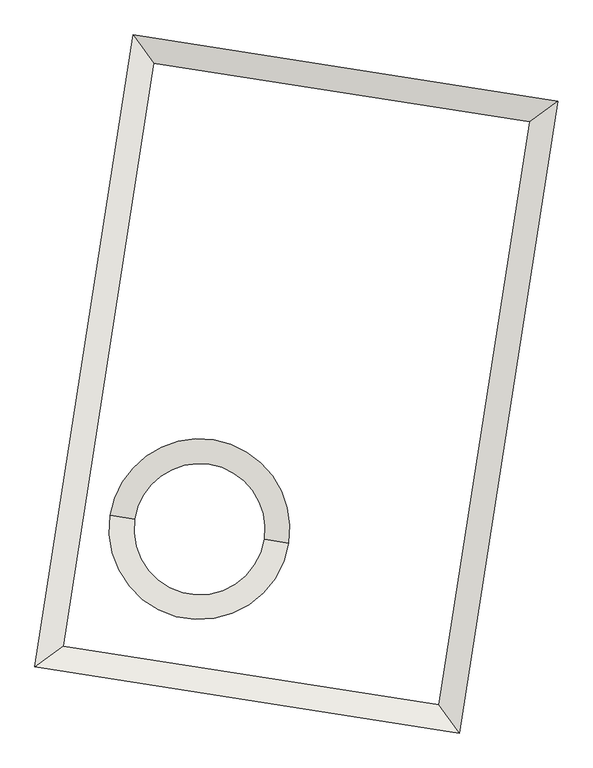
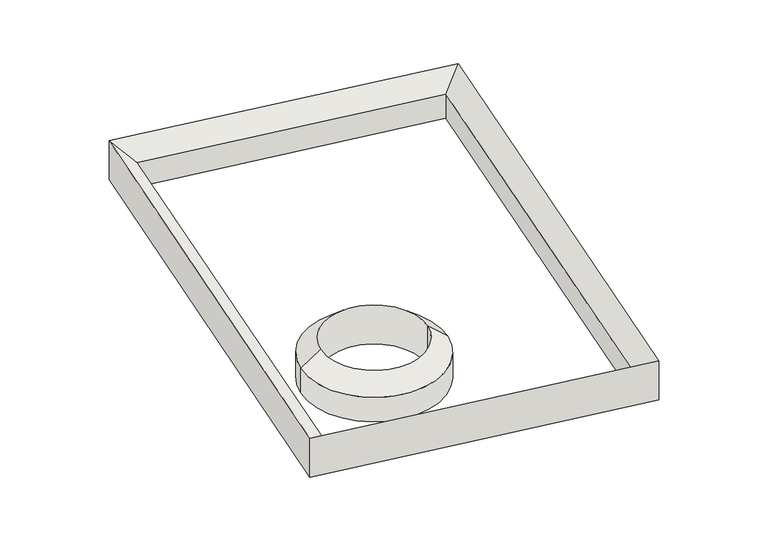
"""IFC4 building model written with IfcOpenShell, lengths in millimetres: wall geometry, muro fuente : muro fuente."""

from ifc_helpers import new_model, si_unit, frame, origin, place, context, project, spatial, polyline, circle_curve, faceted_brep, source, transform, mapped, element, save
from ifc_brep_helpers import plane_surface, cylinder_surface, revolved_surface, advanced_brep


def wall_f9be374a(model_context):
    return source(origin(), model_context, "Body", "SolidModel", [
        advanced_brep(
        [(-38129.5823799, -68581.3931196, -150.0), (-36825.3308935, -68784.6861602, -150.0), (-36825.3308935, -68784.6861602, 100.0), (-38129.5823799, -68581.3931196, 100.0), (-37951.7299045, -68609.1148978, 250.0), (-37003.183369, -68756.9643819, 250.0), (-37003.183369, -68756.9643819, -150.0), (-37951.7299045, -68609.1148978, -150.0)],
        [
            (0, 1, circle_curve(frame((-37477.4566367, -68683.0396399, -150.0), z_axis=(0.0, 0.0, 1.0), x_axis=(0.9880693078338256, -0.15400987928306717, 0.0)), 660.0)),
            (1, 2),
            (2, 3, circle_curve(frame((-37477.4566367, -68683.0396399, 100.0), z_axis=(0.0, 0.0, -1.0), x_axis=(0.9880693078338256, -0.15400987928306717, 0.0)), 660.0)),
            (3, 0),
            (4, 5, circle_curve(frame((-37477.4566367, -68683.0396399, 250.0), z_axis=(0.0, 0.0, 1.0), x_axis=(0.9880693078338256, -0.15400987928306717, 0.0)), 480.0)),
            (5, 6),
            (6, 7, circle_curve(frame((-37477.4566367, -68683.0396399, -150.0), z_axis=(0.0, 0.0, -1.0), x_axis=(0.9880693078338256, -0.15400987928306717, 0.0)), 480.0)),
            (7, 4),
            (2, 5),
            (4, 3),
            (1, 0, circle_curve(frame((-37477.4566367, -68683.0396399, -150.0), z_axis=(0.0, 0.0, 1.0), x_axis=(-0.9880693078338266, 0.1540098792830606, 0.0)), 660.0)),
            (3, 2, circle_curve(frame((-37477.4566367, -68683.0396399, 100.0), z_axis=(0.0, 0.0, -1.0), x_axis=(-0.9880693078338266, 0.1540098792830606, 0.0)), 660.0)),
            (6, 7, circle_curve(frame((-37477.4566367, -68683.0396399, -150.0), z_axis=(0.0, 0.0, 1.0), x_axis=(-0.9880693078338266, 0.1540098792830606, 0.0)), 480.0)),
            (5, 4, circle_curve(frame((-37477.4566367, -68683.0396399, 250.0), z_axis=(0.0, 0.0, 1.0), x_axis=(-0.9880693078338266, 0.1540098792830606, 0.0)), 480.0)),
        ],
        [
            cylinder_surface(frame((-37477.4566367, -68683.0396399, 0.0), z_axis=(0.0, 0.0, -1.0), x_axis=(0.9880693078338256, -0.15400987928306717, 0.0)), 660.0),
            revolved_surface(polyline([(-37003.18336893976, -68756.96438195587, -150.0), (-37003.18336893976, -68756.96438195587, 250.0)]), (-37477.4566367, -68683.0396399, 0.0), (0.0, 0.0, -1.0)),
            revolved_surface(polyline([(-37003.183369, -68756.9643819, 250.0), (-36825.3308935, -68784.6861602, 100.0)]), (-37477.4566367, -68683.0396399, 0.0), (0.0, 0.0, -1.0)),
            cylinder_surface(frame((-37477.4566367, -68683.0396399, 0.0), z_axis=(0.0, 0.0, -1.0), x_axis=(-0.9880693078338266, 0.1540098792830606, 0.0)), 660.0),
            plane_surface(frame((-37477.4566367, -68683.0396399, -150.0), z_axis=(0.0, 0.0, -1.0000000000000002), x_axis=(-0.9880693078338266, 0.1540098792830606, 0.0))),
            revolved_surface(polyline([(-37951.72990446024, -68609.11489784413, -150.0), (-37951.72990446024, -68609.11489784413, 250.0)]), (-37477.4566367, -68683.0396399, 0.0), (0.0, 0.0, -1.0)),
            revolved_surface(polyline([(-37951.7299045, -68609.1148978, 250.0), (-38129.5823799, -68581.3931196, 100.0)]), (-37477.4566367, -68683.0396399, 0.0), (0.0, 0.0, -1.0)),
        ],
        [
            (0, [[1, 2, 3, 4]]),
            (1, [[5, 6, 7, 8]]),
            (2, [[-3, 9, -5, 10]]),
            (3, [[11, -4, 12, -2]]),
            (4, [[-11, -1], [13, -7]]),
            (5, [[14, -8, -13, -6]]),
            (6, [[-12, -10, -14, -9]]),
        ],
    ),
        faceted_brep([(-35064.8041224, -65707.2065765, 100.0), (-35064.8041224, -65707.2065765, -150.0), (-35728.6697349, -69966.3180004, -150.0), (-35728.6697349, -69966.3180004, 100.0), (-34859.2298687, -65557.0758793, 250.0), (-35578.5390378, -70171.8922541, 250.0), (-34859.2298687, -65557.0758793, -150.0), (-35578.5390378, -70171.8922541, -150.0), (-38475.0158003, -69538.2463837, -150.0), (-38475.0158003, -69538.2463837, 100.0), (-38680.590054, -69688.3770808, 250.0), (-38680.590054, -69688.3770808, -150.0), (-37811.1501878, -65279.1349598, -150.0), (-37811.1501878, -65279.1349598, 100.0), (-37961.280885, -65073.5607061, 250.0), (-37961.280885, -65073.5607061, -150.0)], [[[0, 1, 2, 3]], [[4, 0, 3, 5]], [[6, 4, 5, 7]], [[3, 2, 8, 9]], [[5, 3, 9, 10]], [[7, 5, 10, 11]], [[9, 8, 12, 13]], [[10, 9, 13, 14]], [[11, 10, 14, 15]], [[7, 11, 15, 6], [1, 12, 8, 2]], [[13, 12, 1, 0]], [[14, 13, 0, 4]], [[15, 14, 4, 6]]]),
    ])


if __name__ == "__main__":
    model = new_model("IFC4")
    model_context = context("Model", 3, world=origin())
    ifc_project = project(units=[si_unit("LENGTHUNIT", "METRE", prefix="MILLI")], contexts=[model_context])
    site = spatial("IfcSite", under=ifc_project)
    building = spatial("IfcBuilding", under=site)
    placement = place(None, origin())
    wall_shape = wall_f9be374a(model_context)
    element("IfcWall", 1, ObjectType="muro fuente : muro fuente", at=placement, inside=building, context=model_context, shape_type="MappedRepresentation", body=[
        mapped(wall_shape, transform((0.0, 0.0, 0.0), x_axis=(1.0, 0.0, 0.0), y_axis=(0.0, 1.0, 0.0), z_axis=(0.0, 0.0, 1.0))),
    ])
    save(model, "model.ifc")
